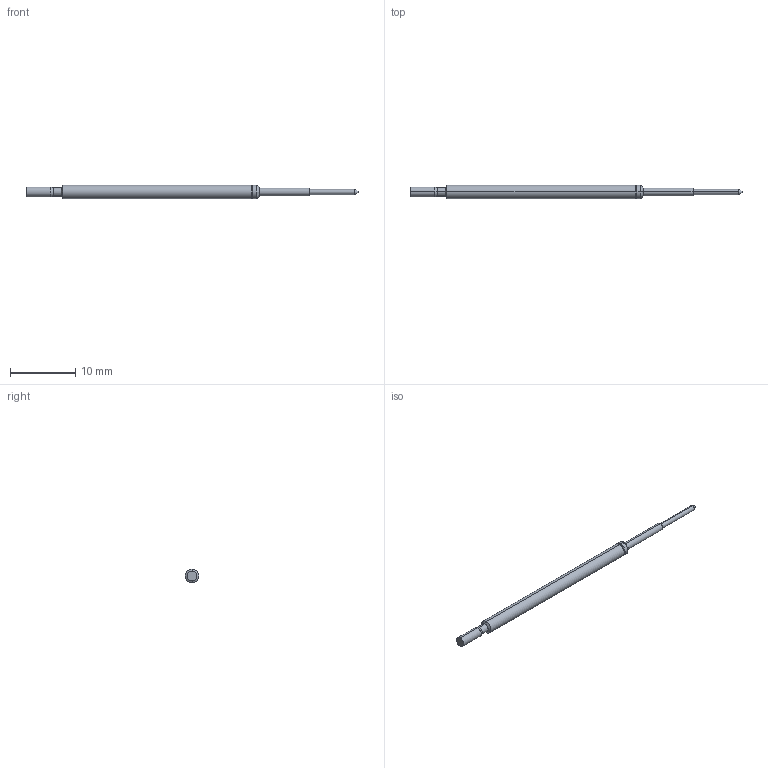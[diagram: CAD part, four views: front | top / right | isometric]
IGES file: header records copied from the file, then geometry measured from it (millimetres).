
Start section: SolidWorks IGES file using analytic representation for surfaces
Global section: file name: Y:\probe solid model mockups\Solidworks models\IGES Files\MSP-3C IGES files\MSP-3C Full.IGS; native system: SolidWorks 2015; preprocessor: SolidWorks 2015; author: adalager; date: 171129.100037; units: inch
Bounding box: 50.8 x 2.03 x 2.03 mm (x, y, z)
Surface area: 269.2 mm2 (no closed solid volume)
Topology: 0 solids, 0 shells, 27 faces, 160 edges, 160 vertices
Faces by surface type: revolution 18, bspline 9
